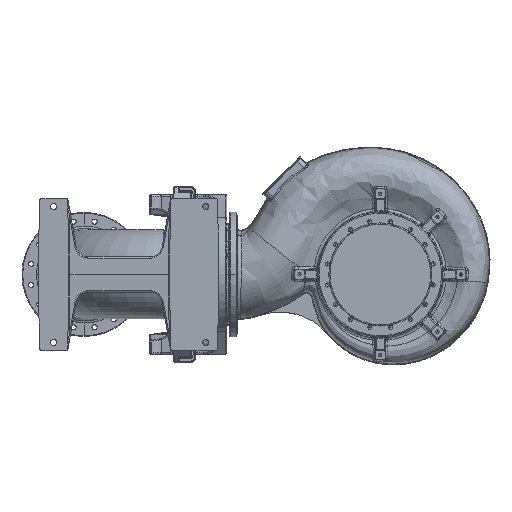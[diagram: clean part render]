
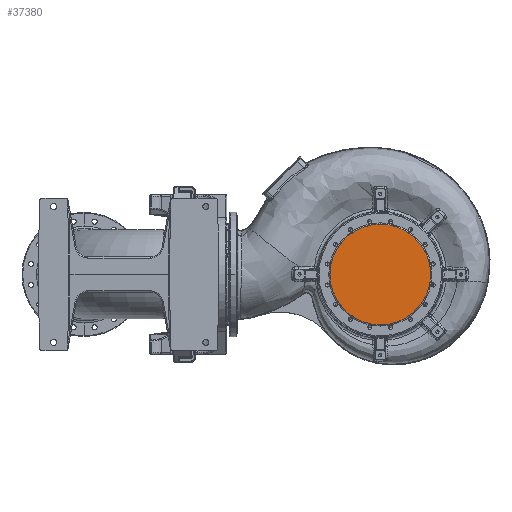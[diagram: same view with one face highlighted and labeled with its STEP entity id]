
A CAD part, front view. The second image highlights one B-rep face of the part: STEP entity #37380.
In plain terms, the highlighted planar face has unit normal (0, -1, 0).
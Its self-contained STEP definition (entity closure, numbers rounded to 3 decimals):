
#990 = AXIS2_PLACEMENT_3D ( 'NONE', #18514, #161487, #39102 ) ;
#3723 = CIRCLE ( 'NONE', #70631, 215. ) ;
#18514 = CARTESIAN_POINT ( 'NONE',  ( 0., -578., 0. ) ) ;
#26954 = CARTESIAN_POINT ( 'NONE',  ( 0., -578., 0. ) ) ;
#31989 = CARTESIAN_POINT ( 'NONE',  ( 0., -578., 215. ) ) ;
#37380 = ADVANCED_FACE ( 'NONE', ( #253831 ), #90713, .T. ) ;
#39102 = DIRECTION ( 'NONE',  ( 0., 0., 1. ) ) ;
#45647 = EDGE_CURVE ( 'NONE', #65681, #231988, #171831, .T. ) ;
#47433 = DIRECTION ( 'NONE',  ( 0., 0., 1. ) ) ;
#50602 = DIRECTION ( 'NONE',  ( 0., -1., 0. ) ) ;
#53938 = ORIENTED_EDGE ( 'NONE', *, *, #152578, .T. ) ;
#61358 = EDGE_LOOP ( 'NONE', ( #53938, #246055 ) ) ;
#65539 = CARTESIAN_POINT ( 'NONE',  ( 0., -578., -215. ) ) ;
#65681 = VERTEX_POINT ( 'NONE', #31989 ) ;
#70631 = AXIS2_PLACEMENT_3D ( 'NONE', #26954, #169943, #47433 ) ;
#90713 = PLANE ( 'NONE',  #110234 ) ;
#110234 = AXIS2_PLACEMENT_3D ( 'NONE', #173133, #50602, #193589 ) ;
#152578 = EDGE_CURVE ( 'NONE', #231988, #65681, #3723, .T. ) ;
#161487 = DIRECTION ( 'NONE',  ( 0., -1., 0. ) ) ;
#169943 = DIRECTION ( 'NONE',  ( 0., -1., 0. ) ) ;
#171831 = CIRCLE ( 'NONE', #990, 215. ) ;
#173133 = CARTESIAN_POINT ( 'NONE',  ( -215., -578., 0. ) ) ;
#193589 = DIRECTION ( 'NONE',  ( 0., 0., 1. ) ) ;
#231988 = VERTEX_POINT ( 'NONE', #65539 ) ;
#246055 = ORIENTED_EDGE ( 'NONE', *, *, #45647, .T. ) ;
#253831 = FACE_OUTER_BOUND ( 'NONE', #61358, .T. ) ;
